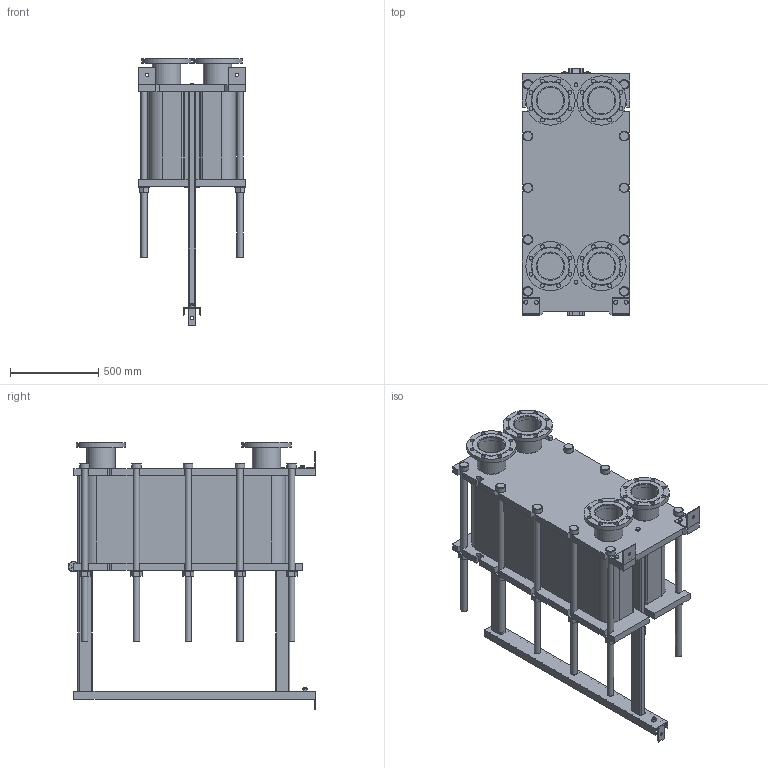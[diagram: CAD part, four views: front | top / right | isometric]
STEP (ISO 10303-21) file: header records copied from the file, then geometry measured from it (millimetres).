
FILE_DESCRIPTION(/* description */ (''),/* implementation_level */ '2;1');
FILE_NAME(/* name */ 'C:\Users\zhuro\Desktop\ENCO\TO\ЭН-041\ЭН-0,5-041-144-1.stp',/* time_stamp */ '2022-06-06T11:01:03+03:00',/* author */ ('zhuro'),/* organization */ (''),/* preprocessor_version */ 'ST-DEVELOPER v18.1',/* originating_system */ 'Autodesk Inventor 2022',/* authorisation */ '');
FILE_SCHEMA (('AUTOMOTIVE_DESIGN { 1 0 10303 214 3 1 1 }'));
Length unit declared in the file: millimetre
Products named in the file (1): ЭН-0,5-041-144-1
Bounding box: 610 x 1406.5 x 1520 mm (x, y, z)
Volume: 362983984.6 mm3; surface area: 9994675 mm2
Topology: 52 solids, 52 shells, 711 faces, 1696 edges, 1094 vertices
Faces by surface type: plane 487, cylinder 177, cone 41, torus 6
Full cylindrical faces by diameter (mm): 8 x4, 10 x2, 16 x8, 18 x3, 22 x32, 36 x24, 50 x1, 54 x10, 60 x12, 151 x4, 161 x8, 280 x4
Entity records: 22667 total; most frequent: CARTESIAN_POINT 5230, DIRECTION 3644, ORIENTED_EDGE 3392, EDGE_CURVE 1696, AXIS2_PLACEMENT_3D 1272, LINE 1100, VECTOR 1100, VERTEX_POINT 1094
